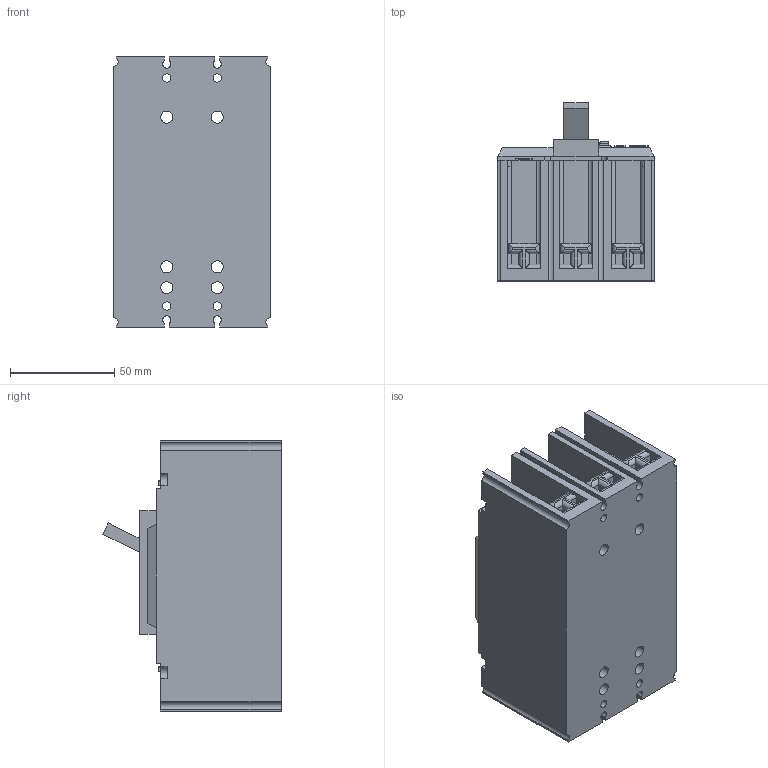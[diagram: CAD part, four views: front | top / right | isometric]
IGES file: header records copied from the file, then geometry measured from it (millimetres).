
Start section:  PTC IGES file: 5-metasol-elcb-100af-3p.igs
Global section: file name: 5-metasol-elcb-100af-3p.igs; native system: Pro/ENGINEER by Parametric Technology Corporation; preprocessor: 2010280; author: mgkimb; organization: Unknown; date: 20131029.142822; units: millimetre
Bounding box: 75 x 85.7 x 130 mm (x, y, z)
Surface area: 73513.1 mm2 (no closed solid volume)
Topology: 0 solids, 0 shells, 740 faces, 4226 edges, 4226 vertices
Faces by surface type: bspline 547, revolution 193
